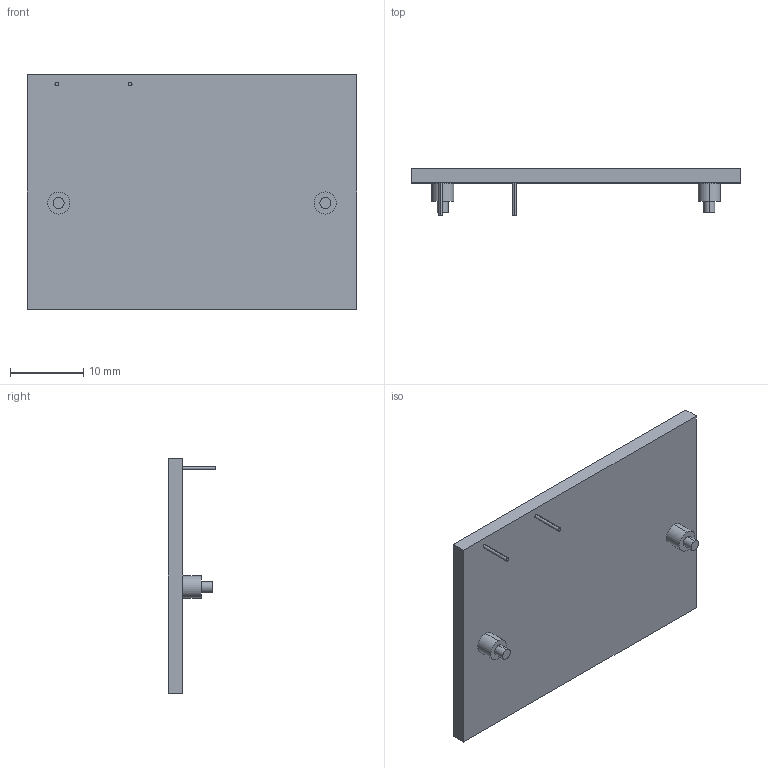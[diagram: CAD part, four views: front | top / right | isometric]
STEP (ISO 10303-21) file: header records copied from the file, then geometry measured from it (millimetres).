
FILE_DESCRIPTION (( 'STEP AP214' ), '1' );
FILE_NAME ('TB1084S.STEP', '2013-03-28T12:26:34', ( 'Tester2' ), ( '' ), 'SwSTEP 2.0', 'SolidWorks 2012', '' );
FILE_SCHEMA (( 'AUTOMOTIVE_DESIGN' ));
Length unit declared in the file: millimetre
Products named in the file (1): TB1084S
Bounding box: 44.85 x 6.5 x 32 mm (x, y, z)
Volume: 2814.5 mm3; surface area: 3266.3 mm2
Topology: 1 solids, 1 shells, 29 faces, 60 edges, 40 vertices
Faces by surface type: plane 17, cylinder 12
Entity records: 933 total; most frequent: DIRECTION 144, CARTESIAN_POINT 130, ORIENTED_EDGE 120, EDGE_CURVE 60, AXIS2_PLACEMENT_3D 54, VERTEX_POINT 40, EDGE_LOOP 36, VECTOR 36
